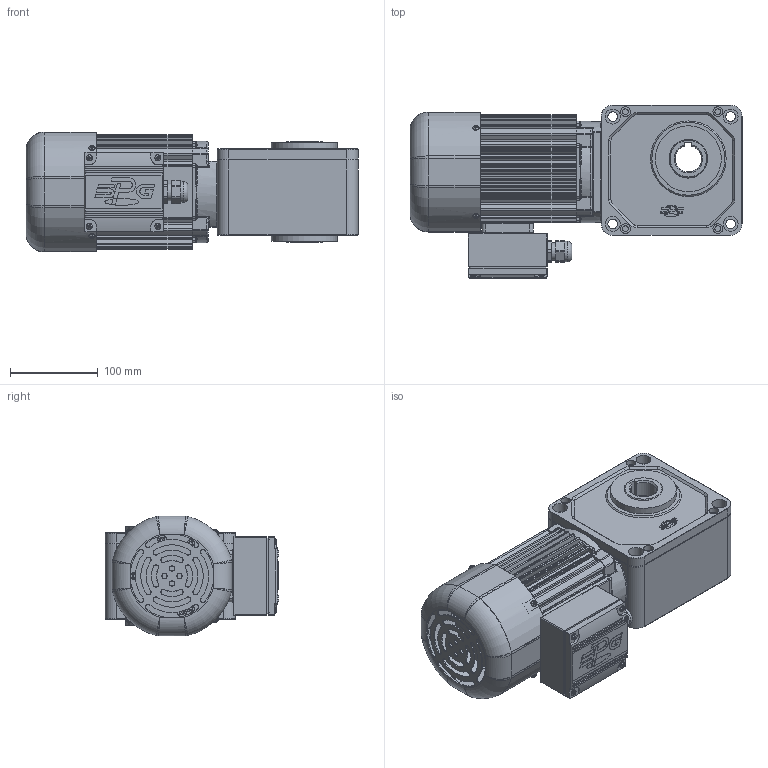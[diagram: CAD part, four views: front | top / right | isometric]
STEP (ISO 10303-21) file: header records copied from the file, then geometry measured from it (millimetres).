
FILE_DESCRIPTION(/* description */ (''),/* implementation_level */ '2;1');
FILE_NAME(/* name */ 'Z:\동력 3D 파일\PCH30_0.2kW_Brake_3D.stp',/* time_stamp */ '2021-11-09T09:44:05+09:00',/* author */ ('jaebok'),/* organization */ (''),/* preprocessor_version */ 'ST-DEVELOPER v18.1',/* originating_system */ 'Autodesk Inventor 2022',/* authorisation */ '');
FILE_SCHEMA (('AUTOMOTIVE_DESIGN { 1 0 10303 214 3 1 1 }'));
Products named in the file (1): 부품22
Bounding box: 377.5 x 197.5 x 136.4 mm (x, y, z)
Volume: 2168802.3 mm3; surface area: 610627.9 mm2
Topology: 2 solids, 26 shells, 2131 faces, 5430 edges, 3438 vertices
Faces by surface type: plane 988, cylinder 820, torus 110, cone 103, bspline 98, sphere 12
Full cylindrical faces by diameter (mm): 1.5 x2, 2 x4, 3 x4, 3.242 x4, 3.25 x1, 3.3 x8, 3.6 x4, 3.8 x3, 4 x20, 4.2 x9, 5 x18, 5.8 x2, 5.9 x3, 6 x17, 6.4 x1, 6.5 x10, 7 x12, 7.9 x6, 8 x4, 8.5 x1, 8.7 x1, 10 x1, 11 x8, 12.5 x1, 15 x1, 16 x1, 17 x12, 20 x2, 21 x1, 23.6 x1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
Entity records: 72440 total; most frequent: CARTESIAN_POINT 18331, DIRECTION 11305, ORIENTED_EDGE 10748, EDGE_CURVE 5374, AXIS2_PLACEMENT_3D 4276, VERTEX_POINT 3433, LINE 2753, VECTOR 2753
